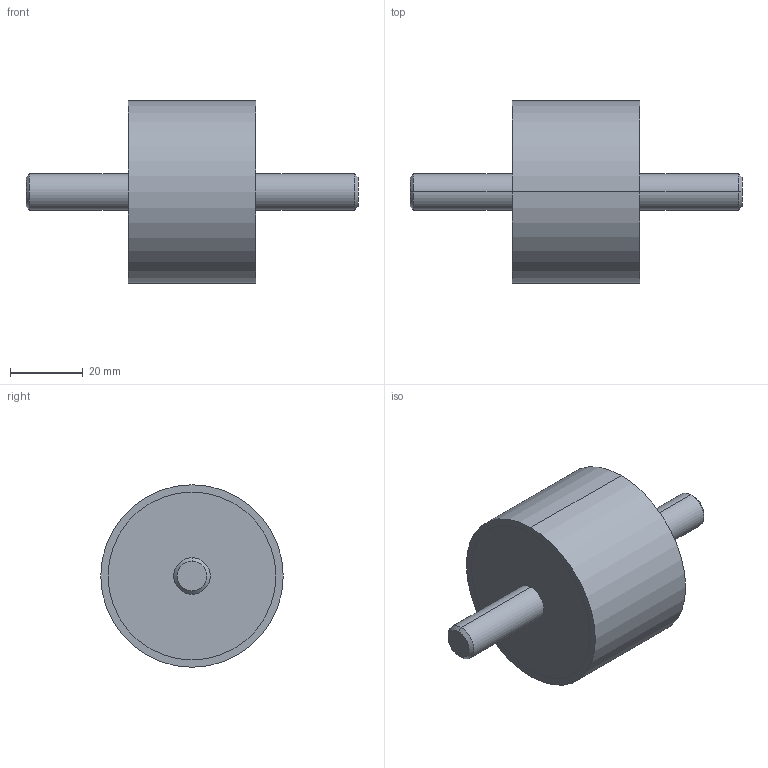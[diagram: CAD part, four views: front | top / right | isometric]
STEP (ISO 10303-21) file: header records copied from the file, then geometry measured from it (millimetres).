
FILE_DESCRIPTION (( 'STEP AP214' ), '1' );
FILE_NAME ('351-50-35-M10-SS-55.step', '2025-07-23T09:53:55', ( '' ), ( '' ), 'SwSTEP 2.0', 'SolidWorks 2022', '' );
FILE_SCHEMA (( 'AUTOMOTIVE_DESIGN' ));
Length unit declared in the file: millimetre
Products named in the file (1): 351-50-35-M10-SS-55
Bounding box: 91 x 50 x 50 mm (x, y, z)
Volume: 73062.3 mm3; surface area: 11150.3 mm2
Topology: 1 solids, 1 shells, 20 faces, 38 edges, 24 vertices
Faces by surface type: cylinder 10, plane 6, cone 4
Entity records: 636 total; most frequent: DIRECTION 104, CARTESIAN_POINT 83, ORIENTED_EDGE 76, AXIS2_PLACEMENT_3D 45, EDGE_CURVE 38, CIRCLE 24, EDGE_LOOP 24, VERTEX_POINT 24
